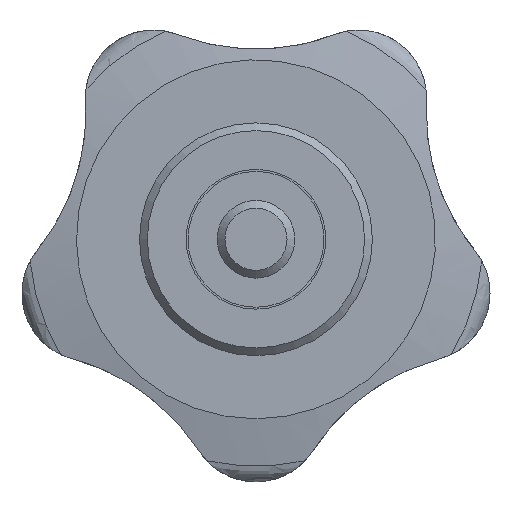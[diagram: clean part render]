
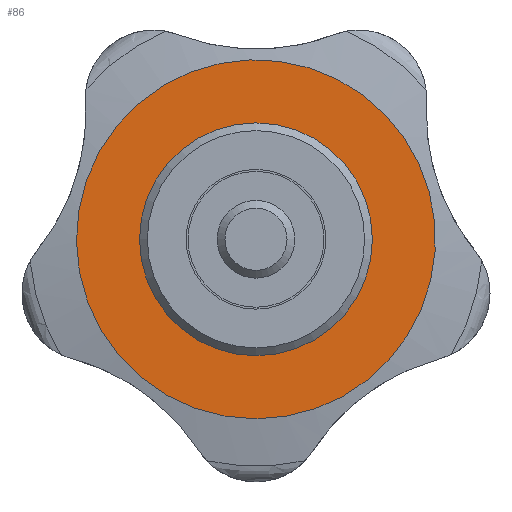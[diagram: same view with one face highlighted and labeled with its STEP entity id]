
A CAD part, front view. The second image highlights one B-rep face of the part: STEP entity #86.
In plain terms, the highlighted planar face has unit normal (0, -1, 0).
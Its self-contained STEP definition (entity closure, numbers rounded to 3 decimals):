
#86 = ADVANCED_FACE( '', ( #133, #134 ), #135, .F. );
#133 = FACE_BOUND( '', #214, .T. );
#134 = FACE_OUTER_BOUND( '', #215, .T. );
#135 = PLANE( '', #216 );
#214 = EDGE_LOOP( '', ( #425 ) );
#215 = EDGE_LOOP( '', ( #426 ) );
#216 = AXIS2_PLACEMENT_3D( '', #427, #428, #429 );
#425 = ORIENTED_EDGE( '', *, *, #632, .F. );
#426 = ORIENTED_EDGE( '', *, *, #593, .T. );
#427 = CARTESIAN_POINT( '', ( 9.25, 10., 0. ) );
#428 = DIRECTION( '', ( 0., 1., 0. ) );
#429 = DIRECTION( '', ( 0., 0., 1. ) );
#593 = EDGE_CURVE( '', #699, #699, #700, .T. );
#632 = EDGE_CURVE( '', #766, #766, #767, .T. );
#699 = VERTEX_POINT( '', #1001 );
#700 = CIRCLE( '', #1002, 9.25 );
#766 = VERTEX_POINT( '', #1287 );
#767 = CIRCLE( '', #1288, 6. );
#1001 = CARTESIAN_POINT( '', ( 0., 10., -9.25 ) );
#1002 = AXIS2_PLACEMENT_3D( '', #1380, #1381, #1382 );
#1287 = CARTESIAN_POINT( '', ( 0., 10., -6. ) );
#1288 = AXIS2_PLACEMENT_3D( '', #1404, #1405, #1406 );
#1380 = CARTESIAN_POINT( '', ( 0., 10., 0. ) );
#1381 = DIRECTION( '', ( 0., -1., 0. ) );
#1382 = DIRECTION( '', ( 0., 0., -1. ) );
#1404 = CARTESIAN_POINT( '', ( 0., 10., 0. ) );
#1405 = DIRECTION( '', ( 0., -1., 0. ) );
#1406 = DIRECTION( '', ( 0., 0., -1. ) );
